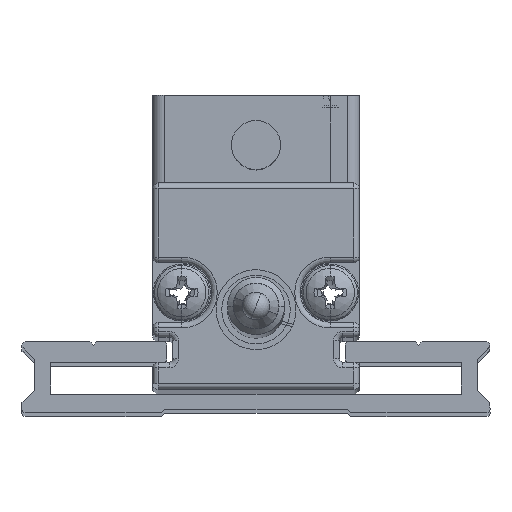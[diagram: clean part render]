
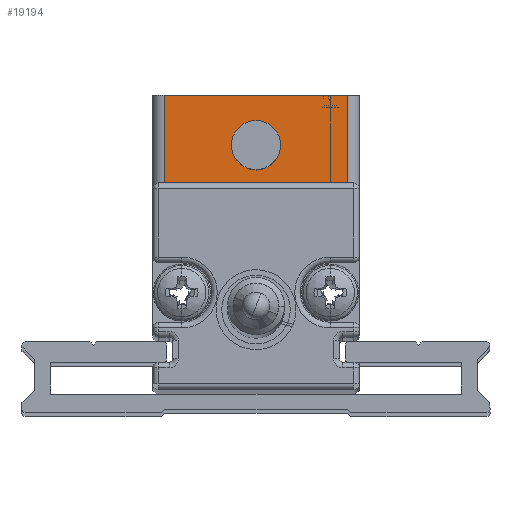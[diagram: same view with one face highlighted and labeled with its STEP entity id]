
A CAD part, top view. The second image highlights one B-rep face of the part: STEP entity #19194.
In plain terms, the highlighted planar face has unit normal (0, 0, 1).
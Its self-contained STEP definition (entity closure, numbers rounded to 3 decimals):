
#23 = DIRECTION ( 'NONE',  ( 0., 0., -1. ) ) ;
#555 = VERTEX_POINT ( 'NONE', #6618 ) ;
#1073 = DIRECTION ( 'NONE',  ( 0., -1., 0. ) ) ;
#2527 = EDGE_CURVE ( 'NONE', #12743, #16619, #18278, .T. ) ;
#2579 = LINE ( 'NONE', #15182, #12639 ) ;
#2819 = EDGE_LOOP ( 'NONE', ( #10367, #11780 ) ) ;
#3224 = EDGE_CURVE ( 'NONE', #16619, #12743, #16548, .T. ) ;
#3514 = PLANE ( 'NONE',  #11984 ) ;
#3570 = EDGE_CURVE ( 'NONE', #555, #4705, #11379, .T. ) ;
#3866 = FACE_OUTER_BOUND ( 'NONE', #5813, .T. ) ;
#4117 = EDGE_CURVE ( 'NONE', #10172, #13456, #2579, .T. ) ;
#4705 = VERTEX_POINT ( 'NONE', #8374 ) ;
#4856 = ORIENTED_EDGE ( 'NONE', *, *, #11246, .F. ) ;
#5615 = DIRECTION ( 'NONE',  ( 0., 1., 0. ) ) ;
#5813 = EDGE_LOOP ( 'NONE', ( #16121, #22449, #4856, #19769 ) ) ;
#6147 = DIRECTION ( 'NONE',  ( 0., -1., 0. ) ) ;
#6618 = CARTESIAN_POINT ( 'NONE',  ( 3.443, 10.515, 71.9 ) ) ;
#8374 = CARTESIAN_POINT ( 'NONE',  ( 3.443, 18.515, 71.9 ) ) ;
#9099 = VECTOR ( 'NONE', #10522, 1000. ) ;
#9221 = VECTOR ( 'NONE', #21929, 1000. ) ;
#10172 = VERTEX_POINT ( 'NONE', #14263 ) ;
#10367 = ORIENTED_EDGE ( 'NONE', *, *, #2527, .F. ) ;
#10460 = CARTESIAN_POINT ( 'NONE',  ( -13.657, 10.515, 71.9 ) ) ;
#10522 = DIRECTION ( 'NONE',  ( -1., 0., 0. ) ) ;
#10539 = DIRECTION ( 'NONE',  ( 0., 0., 1. ) ) ;
#11246 = EDGE_CURVE ( 'NONE', #555, #13456, #14752, .T. ) ;
#11379 = LINE ( 'NONE', #20056, #9221 ) ;
#11780 = ORIENTED_EDGE ( 'NONE', *, *, #3224, .F. ) ;
#11984 = AXIS2_PLACEMENT_3D ( 'NONE', #10460, #23, #5615 ) ;
#12270 = CARTESIAN_POINT ( 'NONE',  ( -4.607, 14.115, 71.9 ) ) ;
#12639 = VECTOR ( 'NONE', #1073, 1000. ) ;
#12743 = VERTEX_POINT ( 'NONE', #17888 ) ;
#13456 = VERTEX_POINT ( 'NONE', #14357 ) ;
#13788 = AXIS2_PLACEMENT_3D ( 'NONE', #12270, #10539, #18957 ) ;
#13806 = CARTESIAN_POINT ( 'NONE',  ( -4.607, 16.265, 71.9 ) ) ;
#14263 = CARTESIAN_POINT ( 'NONE',  ( -12.657, 18.515, 71.9 ) ) ;
#14357 = CARTESIAN_POINT ( 'NONE',  ( -12.657, 10.515, 71.9 ) ) ;
#14467 = LINE ( 'NONE', #16318, #19363 ) ;
#14752 = LINE ( 'NONE', #15881, #9099 ) ;
#14961 = DIRECTION ( 'NONE',  ( 0., 0., 1. ) ) ;
#15182 = CARTESIAN_POINT ( 'NONE',  ( -12.657, 10.515, 71.9 ) ) ;
#15881 = CARTESIAN_POINT ( 'NONE',  ( -13.657, 10.515, 71.9 ) ) ;
#15976 = AXIS2_PLACEMENT_3D ( 'NONE', #16655, #14961, #6147 ) ;
#16121 = ORIENTED_EDGE ( 'NONE', *, *, #18811, .T. ) ;
#16318 = CARTESIAN_POINT ( 'NONE',  ( -13.657, 18.515, 71.9 ) ) ;
#16548 = CIRCLE ( 'NONE', #13788, 2.15 ) ;
#16619 = VERTEX_POINT ( 'NONE', #13806 ) ;
#16655 = CARTESIAN_POINT ( 'NONE',  ( -4.607, 14.115, 71.9 ) ) ;
#17888 = CARTESIAN_POINT ( 'NONE',  ( -4.607, 11.965, 71.9 ) ) ;
#18267 = DIRECTION ( 'NONE',  ( -1., 0., 0. ) ) ;
#18278 = CIRCLE ( 'NONE', #15976, 2.15 ) ;
#18811 = EDGE_CURVE ( 'NONE', #4705, #10172, #14467, .T. ) ;
#18957 = DIRECTION ( 'NONE',  ( 0., -1., 0. ) ) ;
#19194 = ADVANCED_FACE ( 'NONE', ( #20963, #3866 ), #3514, .F. ) ;
#19363 = VECTOR ( 'NONE', #18267, 1000. ) ;
#19769 = ORIENTED_EDGE ( 'NONE', *, *, #3570, .T. ) ;
#20056 = CARTESIAN_POINT ( 'NONE',  ( 3.443, 10.515, 71.9 ) ) ;
#20963 = FACE_BOUND ( 'NONE', #2819, .T. ) ;
#21929 = DIRECTION ( 'NONE',  ( 0., 1., 0. ) ) ;
#22449 = ORIENTED_EDGE ( 'NONE', *, *, #4117, .T. ) ;
